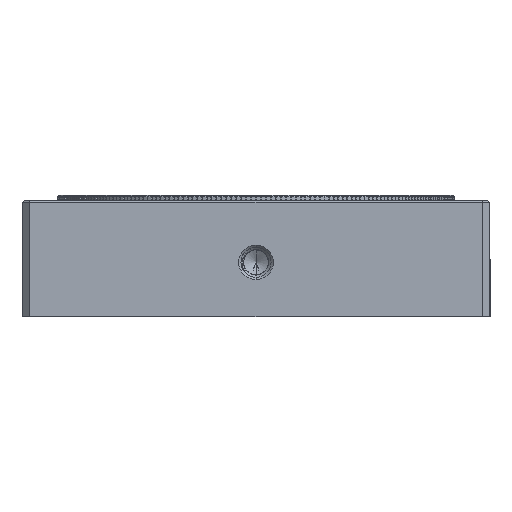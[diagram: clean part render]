
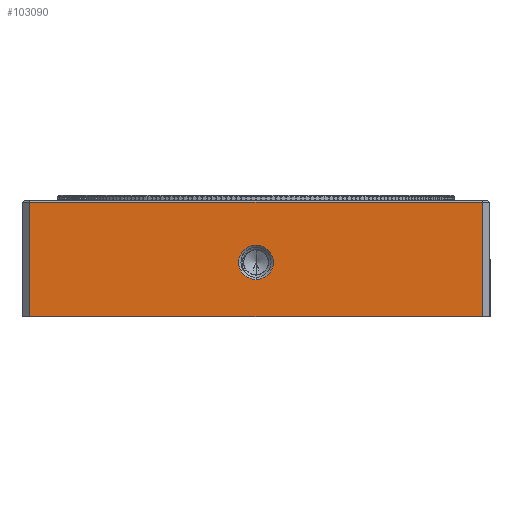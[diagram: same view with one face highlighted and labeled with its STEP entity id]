
A CAD part, front view. The second image highlights one B-rep face of the part: STEP entity #103090.
In plain terms, the highlighted planar face has unit normal (0, -1, 0).
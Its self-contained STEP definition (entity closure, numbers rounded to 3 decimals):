
#8896 = CARTESIAN_POINT ( 'NONE',  ( 61.23, 0., 0. ) ) ;
#13599 = CARTESIAN_POINT ( 'NONE',  ( 31.115, 0., -10.555 ) ) ;
#15010 = VECTOR ( 'NONE', #39254, 1000. ) ;
#16509 = DIRECTION ( 'NONE',  ( 0., -1., 0. ) ) ;
#19509 = ORIENTED_EDGE ( 'NONE', *, *, #164428, .F. ) ;
#19573 = DIRECTION ( 'NONE',  ( 1., 0., 0. ) ) ;
#23158 = EDGE_CURVE ( 'NONE', #168806, #87642, #34907, .T. ) ;
#29357 = EDGE_CURVE ( 'NONE', #152911, #38529, #142888, .T. ) ;
#30902 = CARTESIAN_POINT ( 'NONE',  ( 31.115, 0., -8.255 ) ) ;
#34055 = CARTESIAN_POINT ( 'NONE',  ( 31.115, 0., -8.255 ) ) ;
#34907 = LINE ( 'NONE', #118971, #164961 ) ;
#35031 = PLANE ( 'NONE',  #130082 ) ;
#38529 = VERTEX_POINT ( 'NONE', #147573 ) ;
#39254 = DIRECTION ( 'NONE',  ( 0., 0., -1. ) ) ;
#45644 = EDGE_LOOP ( 'NONE', ( #80511, #186046, #19509, #113266 ) ) ;
#48334 = DIRECTION ( 'NONE',  ( 0., 0., -1. ) ) ;
#54501 = CIRCLE ( 'NONE', #185992, 2.3 ) ;
#57210 = FACE_OUTER_BOUND ( 'NONE', #45644, .T. ) ;
#70727 = CARTESIAN_POINT ( 'NONE',  ( 61.23, 0., -0.3 ) ) ;
#71892 = VERTEX_POINT ( 'NONE', #131982 ) ;
#80511 = ORIENTED_EDGE ( 'NONE', *, *, #203071, .T. ) ;
#83490 = DIRECTION ( 'NONE',  ( 0., 0., 1. ) ) ;
#86760 = LINE ( 'NONE', #166341, #170603 ) ;
#86945 = VERTEX_POINT ( 'NONE', #70727 ) ;
#87642 = VERTEX_POINT ( 'NONE', #175459 ) ;
#103090 = ADVANCED_FACE ( 'NONE', ( #154654, #57210 ), #35031, .F. ) ;
#113266 = ORIENTED_EDGE ( 'NONE', *, *, #23158, .F. ) ;
#117237 = DIRECTION ( 'NONE',  ( 0., 0., -1. ) ) ;
#118971 = CARTESIAN_POINT ( 'NONE',  ( 1., 0., 0. ) ) ;
#123321 = CARTESIAN_POINT ( 'NONE',  ( 31.115, 0., -15.494 ) ) ;
#123468 = LINE ( 'NONE', #8896, #15010 ) ;
#130082 = AXIS2_PLACEMENT_3D ( 'NONE', #204085, #158554, #149645 ) ;
#131982 = CARTESIAN_POINT ( 'NONE',  ( 61.23, 0., -15.494 ) ) ;
#142888 = CIRCLE ( 'NONE', #167871, 2.3 ) ;
#143150 = VECTOR ( 'NONE', #19573, 1000. ) ;
#147573 = CARTESIAN_POINT ( 'NONE',  ( 31.115, 0., -5.955 ) ) ;
#149645 = DIRECTION ( 'NONE',  ( 0., 0., 1. ) ) ;
#151884 = ORIENTED_EDGE ( 'NONE', *, *, #222182, .F. ) ;
#151990 = DIRECTION ( 'NONE',  ( 0., -1., 0. ) ) ;
#152911 = VERTEX_POINT ( 'NONE', #13599 ) ;
#154654 = FACE_BOUND ( 'NONE', #187633, .T. ) ;
#158554 = DIRECTION ( 'NONE',  ( 0., 1., 0. ) ) ;
#164428 = EDGE_CURVE ( 'NONE', #87642, #86945, #86760, .T. ) ;
#164961 = VECTOR ( 'NONE', #83490, 1000. ) ;
#166131 = EDGE_CURVE ( 'NONE', #86945, #71892, #123468, .T. ) ;
#166341 = CARTESIAN_POINT ( 'NONE',  ( 31.115, 0., -0.3 ) ) ;
#167871 = AXIS2_PLACEMENT_3D ( 'NONE', #34055, #16509, #117237 ) ;
#168806 = VERTEX_POINT ( 'NONE', #198137 ) ;
#170603 = VECTOR ( 'NONE', #223080, 1000. ) ;
#175459 = CARTESIAN_POINT ( 'NONE',  ( 1., 0., -0.3 ) ) ;
#185992 = AXIS2_PLACEMENT_3D ( 'NONE', #30902, #151990, #48334 ) ;
#186046 = ORIENTED_EDGE ( 'NONE', *, *, #166131, .F. ) ;
#187633 = EDGE_LOOP ( 'NONE', ( #212642, #151884 ) ) ;
#189247 = LINE ( 'NONE', #123321, #143150 ) ;
#198137 = CARTESIAN_POINT ( 'NONE',  ( 1., 0., -15.494 ) ) ;
#203071 = EDGE_CURVE ( 'NONE', #168806, #71892, #189247, .T. ) ;
#204085 = CARTESIAN_POINT ( 'NONE',  ( 31.115, 0., 0. ) ) ;
#212642 = ORIENTED_EDGE ( 'NONE', *, *, #29357, .F. ) ;
#222182 = EDGE_CURVE ( 'NONE', #38529, #152911, #54501, .T. ) ;
#223080 = DIRECTION ( 'NONE',  ( 1., 0., 0. ) ) ;
